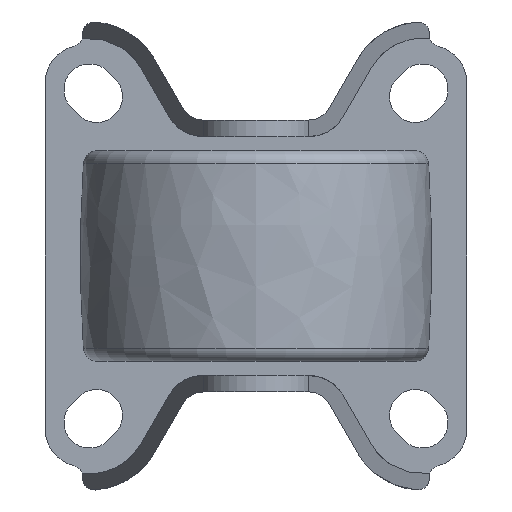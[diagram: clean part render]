
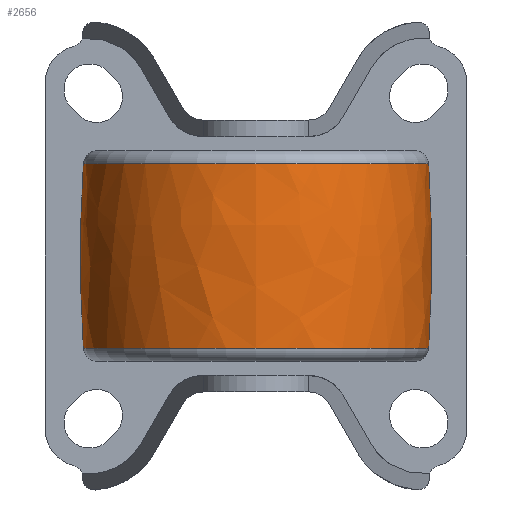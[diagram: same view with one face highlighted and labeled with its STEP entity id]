
A CAD part, front view. The second image highlights one B-rep face of the part: STEP entity #2656.
In plain terms, the highlighted free-form (B-spline) face has degree [3, 3] with [7, 4] control points.
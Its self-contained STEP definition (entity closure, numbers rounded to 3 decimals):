
#2462=CARTESIAN_POINT('',(0.,-262.5,
0.));
#2463=DIRECTION('',(0.,0.,1.));
#2464=DIRECTION('',(0.066,0.998,0.));
#2465=AXIS2_PLACEMENT_3D('',#2462,#2463,#2464);
#2467=CARTESIAN_POINT('',(0.,262.5,
0.));
#2468=DIRECTION('',(0.,0.,-1.));
#2469=DIRECTION('',(0.066,-0.998,0.));
#2470=AXIS2_PLACEMENT_3D('',#2467,#2468,#2469);
#2472=CARTESIAN_POINT('',(19.697,0.,0.));
#2473=DIRECTION('',(-1.,0.,0.));
#2474=DIRECTION('',(0.,1.,0.));
#2475=AXIS2_PLACEMENT_3D('',#2472,#2473,#2474);
#2487=CARTESIAN_POINT('',(-19.697,0.,0.));
#2488=DIRECTION('',(-1.,0.,0.));
#2489=DIRECTION('',(0.,1.,0.));
#2490=AXIS2_PLACEMENT_3D('',#2487,#2488,#2489);
#2555=CARTESIAN_POINT('',(19.697,36.853,0.));
#2556=CARTESIAN_POINT('',(-19.697,36.853,0.));
#2557=VERTEX_POINT('',#2555);
#2558=VERTEX_POINT('',#2556);
#2563=CARTESIAN_POINT('',(19.697,-36.853,0.));
#2564=CARTESIAN_POINT('',(-19.697,-36.853,0.));
#2565=VERTEX_POINT('',#2563);
#2566=VERTEX_POINT('',#2564);
#2619=CARTESIAN_POINT('',(-20.484,-36.727,
2.311));
#2620=CARTESIAN_POINT('',(-6.839,-37.659,
2.369));
#2621=CARTESIAN_POINT('',(6.839,-37.659,2.369));
#2622=CARTESIAN_POINT('',(20.484,-36.727,2.311));
#2623=CARTESIAN_POINT('',(-20.484,-38.149,
-20.291));
#2624=CARTESIAN_POINT('',(-6.839,-39.117,
-20.806));
#2625=CARTESIAN_POINT('',(6.839,-39.117,
-20.806));
#2626=CARTESIAN_POINT('',(20.484,-38.149,
-20.291));
#2627=CARTESIAN_POINT('',(-20.484,-22.647,
-36.8));
#2628=CARTESIAN_POINT('',(-6.839,-23.221,
-37.734));
#2629=CARTESIAN_POINT('',(6.839,-23.221,
-37.734));
#2630=CARTESIAN_POINT('',(20.484,-22.647,
-36.8));
#2631=CARTESIAN_POINT('',(-20.484,0.,
-36.8));
#2632=CARTESIAN_POINT('',(-6.839,0.,-37.734));
#2633=CARTESIAN_POINT('',(6.839,0.,-37.734));
#2634=CARTESIAN_POINT('',(20.484,0.,-36.8));
#2635=CARTESIAN_POINT('',(-20.484,22.647,
-36.8));
#2636=CARTESIAN_POINT('',(-6.839,23.221,
-37.734));
#2637=CARTESIAN_POINT('',(6.839,23.221,-37.734));
#2638=CARTESIAN_POINT('',(20.484,22.647,-36.8));
#2639=CARTESIAN_POINT('',(-20.484,38.149,
-20.291));
#2640=CARTESIAN_POINT('',(-6.839,39.117,
-20.806));
#2641=CARTESIAN_POINT('',(6.839,39.117,-20.806));
#2642=CARTESIAN_POINT('',(20.484,38.149,-20.291));
#2643=CARTESIAN_POINT('',(-20.484,36.727,2.311));
#2644=CARTESIAN_POINT('',(-6.839,37.659,2.369));
#2645=CARTESIAN_POINT('',(6.839,37.659,2.369));
#2646=CARTESIAN_POINT('',(20.484,36.727,2.311));
#2647=(BOUNDED_SURFACE()B_SPLINE_SURFACE(3,3,((#2619,#2620,#2621,#2622),(#2623,
#2624,#2625,#2626),(#2627,#2628,#2629,#2630),(#2631,#2632,#2633,#2634),(#2635,
#2636,#2637,#2638),(#2639,#2640,#2641,#2642),(#2643,#2644,#2645,#2646)),
.UNSPECIFIED.,.F.,.F.,.F.)B_SPLINE_SURFACE_WITH_KNOTS((4,3,4),(4,4),(0.,1.,
2.),(0.,1.),.UNSPECIFIED.)GEOMETRIC_REPRESENTATION_ITEM()RATIONAL_B_SPLINE_SURFACE(((1.189,1.187,1.187,1.189),(
0.939,0.937,0.937,0.939),(
0.939,0.937,0.937,0.939),(
1.189,1.187,1.187,1.189),(
0.939,0.937,0.937,0.939),(
0.939,0.937,0.937,0.939),(
1.189,1.187,1.187,1.189)))REPRESENTATION_ITEM('')SURFACE());
#2648=ORIENTED_EDGE('',*,*,#2608,.T.);
#2650=ORIENTED_EDGE('',*,*,#2649,.T.);
#2651=ORIENTED_EDGE('',*,*,#2612,.F.);
#2653=ORIENTED_EDGE('',*,*,#2652,.F.);
#2654=EDGE_LOOP('',(#2648,#2650,#2651,#2653));
#2655=FACE_OUTER_BOUND('',#2654,.F.);
#2466=CIRCLE('',#2465,300.);
#2471=CIRCLE('',#2470,300.);
#2476=CIRCLE('',#2475,36.853);
#2491=CIRCLE('',#2490,36.853);
#2608=EDGE_CURVE('',#2557,#2558,#2466,.T.);
#2612=EDGE_CURVE('',#2565,#2566,#2471,.T.);
#2649=EDGE_CURVE('',#2558,#2566,#2491,.T.);
#2652=EDGE_CURVE('',#2557,#2565,#2476,.T.);
#2656=ADVANCED_FACE('',(#2655),#2647,.T.);
